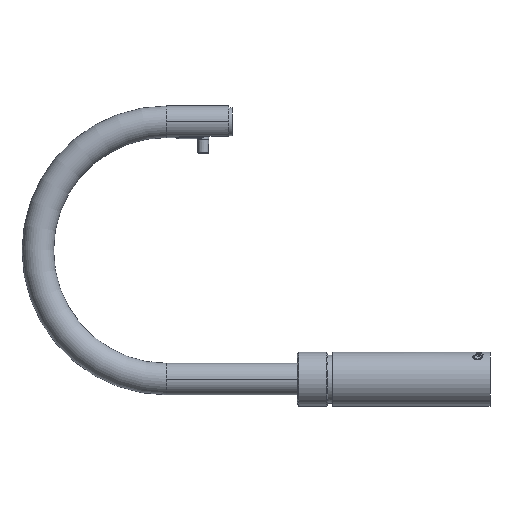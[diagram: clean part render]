
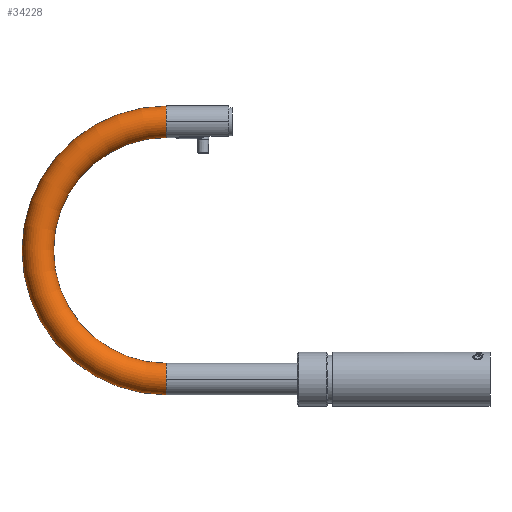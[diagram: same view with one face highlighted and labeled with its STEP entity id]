
A CAD part, left-side view. The second image highlights one B-rep face of the part: STEP entity #34228.
In plain terms, the highlighted toroidal (fillet/blend) face has major radius 110 mm and minor radius 13.5 mm.
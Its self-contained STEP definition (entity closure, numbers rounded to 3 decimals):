
#91 = CARTESIAN_POINT ( 'NONE',  ( 0., 276.5, 220. ) ) ;
#1743 = DIRECTION ( 'NONE',  ( 0., 1., 0. ) ) ;
#2202 = EDGE_CURVE ( 'NONE', #36758, #14811, #6982, .T. ) ;
#2285 = FACE_OUTER_BOUND ( 'NONE', #21674, .T. ) ;
#2887 = EDGE_CURVE ( 'NONE', #27031, #36758, #3254, .T. ) ;
#3254 = CIRCLE ( 'NONE', #9978, 123.5 ) ;
#4547 = EDGE_CURVE ( 'NONE', #36042, #18054, #31734, .T. ) ;
#6498 = DIRECTION ( 'NONE',  ( 1., 0., 0. ) ) ;
#6982 = CIRCLE ( 'NONE', #28247, 13.5 ) ;
#9107 = CIRCLE ( 'NONE', #30440, 13.5 ) ;
#9978 = AXIS2_PLACEMENT_3D ( 'NONE', #24259, #6498, #18126 ) ;
#9996 = CARTESIAN_POINT ( 'NONE',  ( 0., 276.5, 0. ) ) ;
#11833 = DIRECTION ( 'NONE',  ( 0., 0., -1. ) ) ;
#12189 = CARTESIAN_POINT ( 'NONE',  ( 0., 276.5, -13.5 ) ) ;
#13108 = DIRECTION ( 'NONE',  ( -1., 0., 0. ) ) ;
#14497 = ORIENTED_EDGE ( 'NONE', *, *, #2887, .F. ) ;
#14811 = VERTEX_POINT ( 'NONE', #25984 ) ;
#14944 = CARTESIAN_POINT ( 'NONE',  ( 0., 276.5, 110. ) ) ;
#17055 = DIRECTION ( 'NONE',  ( -1., 0., 0. ) ) ;
#18054 = VERTEX_POINT ( 'NONE', #36099 ) ;
#18126 = DIRECTION ( 'NONE',  ( 0., 0., -1. ) ) ;
#18224 = CARTESIAN_POINT ( 'NONE',  ( -13.5, 276.5, 0. ) ) ;
#19275 = ORIENTED_EDGE ( 'NONE', *, *, #4547, .T. ) ;
#19287 = CARTESIAN_POINT ( 'NONE',  ( 0., 276.5, 13.5 ) ) ;
#19683 = ORIENTED_EDGE ( 'NONE', *, *, #30670, .F. ) ;
#20581 = AXIS2_PLACEMENT_3D ( 'NONE', #29751, #29185, #11833 ) ;
#21604 = DIRECTION ( 'NONE',  ( 0., 1., 0. ) ) ;
#21674 = EDGE_LOOP ( 'NONE', ( #14497, #34427, #30051, #19275, #19683, #34409 ) ) ;
#21957 = DIRECTION ( 'NONE',  ( -1., 0., 0. ) ) ;
#23828 = AXIS2_PLACEMENT_3D ( 'NONE', #33629, #1743, #21957 ) ;
#23927 = DIRECTION ( 'NONE',  ( 1., 0., 0. ) ) ;
#23990 = EDGE_CURVE ( 'NONE', #27031, #26081, #29315, .T. ) ;
#24259 = CARTESIAN_POINT ( 'NONE',  ( 0., 276.5, 110. ) ) ;
#24687 = DIRECTION ( 'NONE',  ( -1., 0., 0. ) ) ;
#25984 = CARTESIAN_POINT ( 'NONE',  ( -13.5, 276.5, 220. ) ) ;
#26081 = VERTEX_POINT ( 'NONE', #18224 ) ;
#26799 = DIRECTION ( 'NONE',  ( 0., 0., -1. ) ) ;
#27031 = VERTEX_POINT ( 'NONE', #12189 ) ;
#27265 = DIRECTION ( 'NONE',  ( 0., -1., 0. ) ) ;
#27658 = CARTESIAN_POINT ( 'NONE',  ( 0., 276.5, 233.5 ) ) ;
#28247 = AXIS2_PLACEMENT_3D ( 'NONE', #36385, #27265, #13108 ) ;
#28533 = DIRECTION ( 'NONE',  ( 0., -1., 0. ) ) ;
#29185 = DIRECTION ( 'NONE',  ( 1., 0., 0. ) ) ;
#29315 = CIRCLE ( 'NONE', #23828, 13.5 ) ;
#29751 = CARTESIAN_POINT ( 'NONE',  ( 0., 276.5, 110. ) ) ;
#30051 = ORIENTED_EDGE ( 'NONE', *, *, #35662, .T. ) ;
#30440 = AXIS2_PLACEMENT_3D ( 'NONE', #9996, #21604, #24687 ) ;
#30670 = EDGE_CURVE ( 'NONE', #14811, #18054, #35085, .T. ) ;
#31099 = AXIS2_PLACEMENT_3D ( 'NONE', #14944, #23927, #26799 ) ;
#31734 = CIRCLE ( 'NONE', #31099, 96.5 ) ;
#32033 = AXIS2_PLACEMENT_3D ( 'NONE', #91, #28533, #17055 ) ;
#33629 = CARTESIAN_POINT ( 'NONE',  ( 0., 276.5, 0. ) ) ;
#34228 = ADVANCED_FACE ( 'NONE', ( #2285 ), #36429, .T. ) ;
#34409 = ORIENTED_EDGE ( 'NONE', *, *, #2202, .F. ) ;
#34427 = ORIENTED_EDGE ( 'NONE', *, *, #23990, .T. ) ;
#35085 = CIRCLE ( 'NONE', #32033, 13.5 ) ;
#35662 = EDGE_CURVE ( 'NONE', #26081, #36042, #9107, .T. ) ;
#36042 = VERTEX_POINT ( 'NONE', #19287 ) ;
#36099 = CARTESIAN_POINT ( 'NONE',  ( 0., 276.5, 206.5 ) ) ;
#36385 = CARTESIAN_POINT ( 'NONE',  ( 0., 276.5, 220. ) ) ;
#36429 = TOROIDAL_SURFACE ( 'NONE', #20581, 110., 13.5 ) ;
#36758 = VERTEX_POINT ( 'NONE', #27658 ) ;
